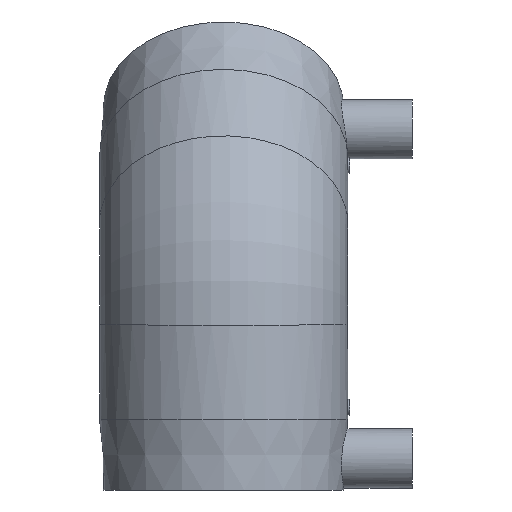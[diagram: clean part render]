
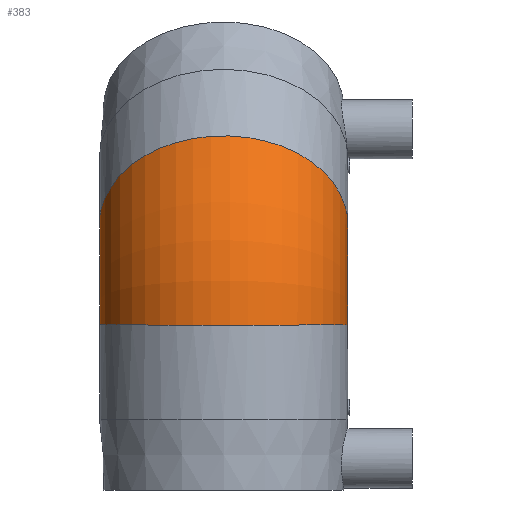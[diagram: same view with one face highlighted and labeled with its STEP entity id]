
A CAD part, left-side view. The second image highlights one B-rep face of the part: STEP entity #383.
In plain terms, the highlighted toroidal (fillet/blend) face has major radius 35.5 mm and minor radius 31.5 mm.
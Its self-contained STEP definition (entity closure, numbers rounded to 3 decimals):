
#21=TOROIDAL_SURFACE('',#447,35.5,31.5);
#29=B_SPLINE_CURVE_WITH_KNOTS('',3,(#675,#676,#677,#678,#679,#680,#681,
#682,#683,#684,#685,#686,#687,#688,#689,#690,#691,#692,#693,#694,#695,#696,
#697,#698,#699,#700,#701),.UNSPECIFIED.,.F.,.F.,(4,1,1,1,1,1,1,1,1,1,1,
1,1,1,1,1,1,1,1,1,1,1,1,1,4),(0.,0.003,
0.006,0.012,0.018,0.021,
0.024,0.027,0.03,0.034,
0.037,0.04,0.043,0.049,
0.055,0.061,0.064,0.068,
0.074,0.08,0.086,0.089,
0.092,0.095,0.098),.UNSPECIFIED.);
#31=B_SPLINE_CURVE_WITH_KNOTS('',3,(#724,#725,#726,#727,#728,#729,#730,
#731,#732,#733,#734,#735,#736,#737,#738,#739,#740,#741,#742,#743,#744,#745,
#746,#747,#748,#749),.UNSPECIFIED.,.F.,.F.,(4,1,1,1,1,1,1,1,1,1,1,1,1,1,
1,1,1,1,1,1,1,1,1,4),(0.,0.003,0.006,
0.012,0.018,0.021,0.024,
0.027,0.03,0.034,0.037,
0.04,0.043,0.049,0.055,
0.061,0.064,0.068,0.071,
0.074,0.08,0.086,0.092,
0.098),.UNSPECIFIED.);
#104=ORIENTED_EDGE('',*,*,#148,.F.);
#105=ORIENTED_EDGE('',*,*,#159,.F.);
#106=ORIENTED_EDGE('',*,*,#158,.F.);
#107=ORIENTED_EDGE('',*,*,#153,.T.);
#108=ORIENTED_EDGE('',*,*,#161,.T.);
#109=ORIENTED_EDGE('',*,*,#160,.T.);
#148=EDGE_CURVE('',#189,#188,#29,.T.);
#153=EDGE_CURVE('',#194,#193,#31,.T.);
#158=EDGE_CURVE('',#194,#199,#226,.T.);
#159=EDGE_CURVE('',#199,#189,#227,.T.);
#160=EDGE_CURVE('',#200,#188,#228,.T.);
#161=EDGE_CURVE('',#193,#200,#229,.T.);
#188=VERTEX_POINT('',#673);
#189=VERTEX_POINT('',#674);
#193=VERTEX_POINT('',#722);
#194=VERTEX_POINT('',#723);
#199=VERTEX_POINT('',#990);
#200=VERTEX_POINT('',#993);
#226=CIRCLE('',#440,35.5);
#227=CIRCLE('',#441,35.5);
#228=CIRCLE('',#442,35.5);
#229=CIRCLE('',#443,35.5);
#273=EDGE_LOOP('',(#104,#105,#106,#107,#108,#109));
#330=FACE_BOUND('',#273,.T.);
#383=ADVANCED_FACE('',(#330),#21,.T.);
#440=AXIS2_PLACEMENT_3D('',#989,#532,#533);
#441=AXIS2_PLACEMENT_3D('',#991,#534,#535);
#442=AXIS2_PLACEMENT_3D('',#992,#536,#537);
#443=AXIS2_PLACEMENT_3D('',#994,#538,#539);
#447=AXIS2_PLACEMENT_3D('',#1051,#546,#547);
#532=DIRECTION('',(0.,1.,0.));
#533=DIRECTION('',(-1.,0.,-0.008));
#534=DIRECTION('',(0.,1.,0.));
#535=DIRECTION('',(-1.,0.,-0.008));
#536=DIRECTION('',(0.,1.,0.));
#537=DIRECTION('',(-1.,0.,-0.008));
#538=DIRECTION('',(0.,1.,0.));
#539=DIRECTION('',(-1.,0.,-0.008));
#546=DIRECTION('',(0.,1.,0.));
#547=DIRECTION('',(0.,0.,1.));
#673=CARTESIAN_POINT('',(10.607,-31.5,10.607));
#674=CARTESIAN_POINT('',(10.607,31.5,10.607));
#675=CARTESIAN_POINT('',(10.607,31.5,10.607));
#676=CARTESIAN_POINT('',(9.882,31.5,11.337));
#677=CARTESIAN_POINT('',(8.417,31.397,12.815));
#678=CARTESIAN_POINT('',(5.555,30.794,15.699));
#679=CARTESIAN_POINT('',(2.031,29.271,19.249));
#680=CARTESIAN_POINT('',(-1.149,26.857,22.451));
#681=CARTESIAN_POINT('',(-3.509,24.373,24.827));
#682=CARTESIAN_POINT('',(-5.117,22.3,26.446));
#683=CARTESIAN_POINT('',(-6.572,20.022,27.911));
#684=CARTESIAN_POINT('',(-7.88,17.522,29.227));
#685=CARTESIAN_POINT('',(-9.004,14.858,30.358));
#686=CARTESIAN_POINT('',(-9.93,12.079,31.289));
#687=CARTESIAN_POINT('',(-10.665,9.173,32.029));
#688=CARTESIAN_POINT('',(-11.377,5.13,32.746));
#689=CARTESIAN_POINT('',(-11.732,0.041,33.102));
#690=CARTESIAN_POINT('',(-11.301,-6.219,32.669));
#691=CARTESIAN_POINT('',(-10.235,-11.165,31.596));
#692=CARTESIAN_POINT('',(-8.999,-14.874,30.352));
#693=CARTESIAN_POINT('',(-7.485,-18.45,28.829));
#694=CARTESIAN_POINT('',(-5.195,-22.406,26.524));
#695=CARTESIAN_POINT('',(-1.778,-26.382,23.084));
#696=CARTESIAN_POINT('',(1.404,-28.794,19.88));
#697=CARTESIAN_POINT('',(4.17,-30.199,17.094));
#698=CARTESIAN_POINT('',(6.277,-30.945,14.971));
#699=CARTESIAN_POINT('',(8.418,-31.397,12.813));
#700=CARTESIAN_POINT('',(9.882,-31.5,11.337));
#701=CARTESIAN_POINT('',(10.607,-31.5,10.607));
#722=CARTESIAN_POINT('',(0.,-31.5,-15.));
#723=CARTESIAN_POINT('',(0.,31.5,-15.));
#724=CARTESIAN_POINT('',(0.,31.5,-15.));
#725=CARTESIAN_POINT('',(-1.029,31.5,-15.004));
#726=CARTESIAN_POINT('',(-3.11,31.397,-15.013));
#727=CARTESIAN_POINT('',(-7.173,30.794,-15.029));
#728=CARTESIAN_POINT('',(-12.176,29.271,-15.047));
#729=CARTESIAN_POINT('',(-16.688,26.856,-15.063));
#730=CARTESIAN_POINT('',(-20.037,24.372,-15.074));
#731=CARTESIAN_POINT('',(-22.319,22.299,-15.082));
#732=CARTESIAN_POINT('',(-24.384,20.022,-15.088));
#733=CARTESIAN_POINT('',(-26.239,17.522,-15.094));
#734=CARTESIAN_POINT('',(-27.833,14.858,-15.099));
#735=CARTESIAN_POINT('',(-29.146,12.078,-15.103));
#736=CARTESIAN_POINT('',(-30.189,9.172,-15.107));
#737=CARTESIAN_POINT('',(-31.2,5.129,-15.11));
#738=CARTESIAN_POINT('',(-31.703,0.035,-15.111));
#739=CARTESIAN_POINT('',(-31.09,-6.202,-15.109));
#740=CARTESIAN_POINT('',(-29.603,-11.109,-15.105));
#741=CARTESIAN_POINT('',(-27.824,-14.877,-15.099));
#742=CARTESIAN_POINT('',(-26.241,-17.515,-15.094));
#743=CARTESIAN_POINT('',(-24.412,-19.989,-15.089));
#744=CARTESIAN_POINT('',(-21.614,-23.078,-15.079));
#745=CARTESIAN_POINT('',(-17.655,-26.333,-15.066));
#746=CARTESIAN_POINT('',(-12.128,-29.291,-15.047));
#747=CARTESIAN_POINT('',(-6.252,-31.081,-15.025));
#748=CARTESIAN_POINT('',(-2.059,-31.5,-15.009));
#749=CARTESIAN_POINT('',(0.,-31.5,-15.));
#989=CARTESIAN_POINT('',(35.499,31.5,-14.704));
#990=CARTESIAN_POINT('',(-0.001,31.5,-14.512));
#991=CARTESIAN_POINT('',(35.499,31.5,-14.704));
#992=CARTESIAN_POINT('',(35.499,-31.5,-14.704));
#993=CARTESIAN_POINT('',(-0.001,-31.5,-14.512));
#994=CARTESIAN_POINT('',(35.499,-31.5,-14.704));
#1051=CARTESIAN_POINT('',(35.499,0.,-14.704));
